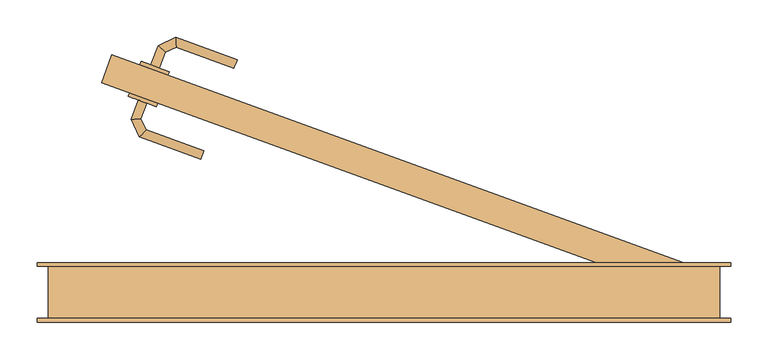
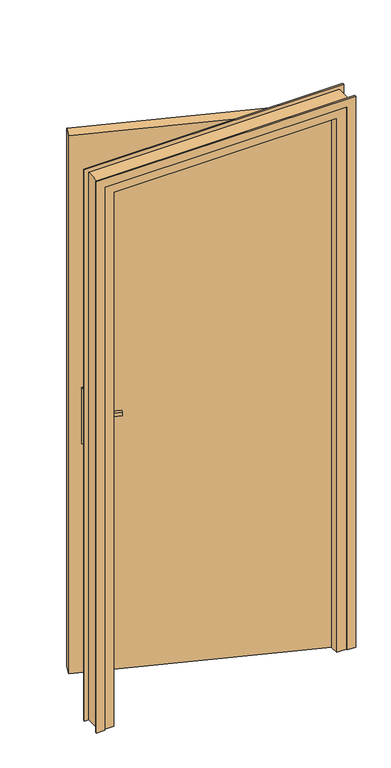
"""IFC4 building model written with IfcOpenShell, lengths in millimetres: door geometry, @_Int. Simple : @_PP (0.83m x 2.04m)."""

from ifc_helpers import new_model, si_unit, point, frame, frame_2d, origin, origin_with_axes, place, context, project, spatial, polyline, circle_curve, ellipse_curve, trimmed, segment, composite_curve, outline, extrude, faceted_brep, source, transform, mapped, element, save
from ifc_brep_helpers import plane_surface, cylinder_surface, advanced_brep


def door_bd61b35e(model_context):
    return source(origin(), model_context, "Body", "SolidModel", [
        extrude(outline(composite_curve([segment(trimmed(circle_curve(frame_2d((0.0, 40.0)), 40.0), [point((34.6410162, 60.0))], [point((34.6410162, 20.0))], False, "CARTESIAN"), True, "CONTINUOUS"), segment(polyline([(34.6410162, 20.0), (-175.3589838, 20.0)]), True, "CONTINUOUS"), segment(trimmed(circle_curve(frame_2d((-140.7179676, 40.0)), 40.0), [point((-175.3589838, 20.0))], [point((-175.3589838, 60.0))], False, "CARTESIAN"), True, "CONTINUOUS"), segment(polyline([(-175.3589838, 60.0), (34.6410162, 60.0)]), True, "CONTINUOUS")], self_intersect=False)), frame((-305.9756132, 284.6747046, 904.6410162), z_axis=(0.3420201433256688, 0.9396926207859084, 0.0), x_axis=(0.0, 0.0, -1.0)), (0.0, 0.0, 1.0), 5.0),
        extrude(outline(composite_curve([segment(trimmed(circle_curve(frame_2d((0.0, 40.0000001)), 40.0), [point((-34.6410162, 20.0))], [point((-34.6410162, 60.0))], False, "CARTESIAN"), True, "CONTINUOUS"), segment(polyline([(-34.6410162, 60.0), (175.3589838, 60.0)]), True, "CONTINUOUS"), segment(trimmed(circle_curve(frame_2d((140.7179676, 40.0000001)), 40.0), [point((175.3589838, 60.0))], [point((175.3589838, 20.0))], False, "CARTESIAN"), True, "CONTINUOUS"), segment(polyline([(175.3589838, 20.0), (-34.6410162, 20.0)]), True, "CONTINUOUS")], self_intersect=False)), frame((-321.3665196, 242.3885367, 1045.3589838), z_axis=(0.3420201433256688, 0.9396926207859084, 0.0), x_axis=(0.0, 0.0, -1.0)), (0.0, 0.0, 1.0), 5.0),
        advanced_brep(
        [(-347.491373, 305.1060943, 1007.0), (-347.491373, 305.1060943, 993.0), (-336.2150616, 301.0018526, 993.0), (-336.2150616, 301.0018526, 1007.0), (-328.457912, 322.3144458, 1007.0), (-338.0341909, 331.0894887, 1007.0), (-328.457912, 322.3144458, 993.0), (-338.0341909, 331.0894887, 993.0), (-313.9133269, 329.0966972, 1007.0), (-314.4798863, 342.0730413, 1007.0), (-313.9133269, 329.0966972, 993.0), (-314.4798863, 342.0730413, 993.0), (-232.1238807, 312.0979066, 1007.0), (-236.2281224, 300.8215952, 1007.0), (-236.2281224, 300.8215952, 993.0), (-232.1238807, 312.0979066, 993.0)],
        [
            (0, 1),
            (1, 2, circle_curve(frame((-341.8532173, 303.0539735, 1013.0457722), z_axis=(-0.3420201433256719, -0.9396926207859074, 0.0), x_axis=(0.9396926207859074, -0.3420201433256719, 0.0)), 20.9244589)),
            (2, 3),
            (3, 0, circle_curve(frame((-341.8532173, 303.0539735, 986.9542278), z_axis=(-0.3420201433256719, -0.9396926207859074, 0.0), x_axis=(0.9396926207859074, -0.3420201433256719, 0.0)), 20.9244589)),
            (3, 4),
            (4, 5, ellipse_curve(frame((-333.2460515, 326.7019672, 986.9542278), z_axis=(-0.6755902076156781, -0.7372773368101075, 0.0), x_axis=(0.7372773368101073, -0.6755902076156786, 0.0)), 22.6484711, 20.9244589)),
            (5, 0),
            (2, 6),
            (6, 4),
            (1, 7),
            (7, 6, ellipse_curve(frame((-333.2460515, 326.7019672, 1013.0457722), z_axis=(-0.6755902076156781, -0.7372773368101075, 0.0), x_axis=(0.7372773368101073, -0.6755902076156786, 0.0)), 22.6484711, 20.9244589)),
            (5, 7),
            (4, 8),
            (8, 9, ellipse_curve(frame((-314.1966066, 335.5848693, 986.9542278), z_axis=(-0.9990482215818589, -0.0436193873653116, 0.0), x_axis=(0.04361938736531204, -0.9990482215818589, 0.0)), 22.6484711, 20.9244589)),
            (9, 5),
            (6, 10),
            (10, 8),
            (7, 11),
            (11, 10, ellipse_curve(frame((-314.1966066, 335.5848693, 1013.0457722), z_axis=(-0.9990482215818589, -0.0436193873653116, 0.0), x_axis=(0.04361938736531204, -0.9990482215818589, 0.0)), 22.6484711, 20.9244589)),
            (9, 11),
            (12, 13, circle_curve(frame((-234.1760015, 306.4597509, 986.9542278), z_axis=(0.9396926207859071, -0.34202014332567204, 0.0), x_axis=(-0.3420201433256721, -0.9396926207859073, 0.0)), 20.9244589)),
            (13, 14),
            (14, 15, circle_curve(frame((-234.1760015, 306.4597509, 1013.0457722), z_axis=(0.9396926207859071, -0.34202014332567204, 0.0), x_axis=(-0.3420201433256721, -0.9396926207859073, 0.0)), 20.9244589)),
            (15, 12),
            (8, 13),
            (12, 9),
            (10, 14),
            (11, 15),
        ],
        [
            plane_surface(frame((-350.5167552, 306.2072434, 1000.0), z_axis=(-0.3420201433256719, -0.9396926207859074, 0.0), x_axis=(0.0, 0.0, -1.0))),
            cylinder_surface(frame((-341.8532173, 303.0539735, 986.9542278), z_axis=(-0.3420201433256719, -0.9396926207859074, 0.0), x_axis=(0.9396926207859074, -0.3420201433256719, 0.0)), 20.9244589),
            plane_surface(frame((-336.2150616, 301.0018526, 1007.0), z_axis=(0.9396926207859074, -0.3420201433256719, 0.0), x_axis=(0.3420201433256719, 0.9396926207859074, 0.0))),
            cylinder_surface(frame((-341.8532173, 303.0539735, 1013.0457722), z_axis=(-0.3420201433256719, -0.9396926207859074, 0.0), x_axis=(0.9396926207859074, -0.3420201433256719, 0.0)), 20.9244589),
            plane_surface(frame((-347.491373, 305.1060943, 993.0), z_axis=(-0.9396926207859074, 0.3420201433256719, 0.0), x_axis=(0.3420201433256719, 0.9396926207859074, 0.0))),
            cylinder_surface(frame((-333.2460515, 326.7019672, 986.9542278), z_axis=(-0.9063077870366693, -0.42261826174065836, 0.0), x_axis=(0.42261826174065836, -0.9063077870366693, 0.0)), 20.9244589),
            plane_surface(frame((-328.457912, 322.3144458, 1007.0), z_axis=(0.42261826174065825, -0.9063077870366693, 0.0), x_axis=(0.9063077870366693, 0.42261826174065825, 0.0))),
            cylinder_surface(frame((-333.2460515, 326.7019672, 1013.0457722), z_axis=(-0.9063077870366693, -0.42261826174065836, 0.0), x_axis=(0.42261826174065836, -0.9063077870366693, 0.0)), 20.9244589),
            plane_surface(frame((-338.0341909, 331.0894887, 993.0), z_axis=(-0.42261826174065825, 0.9063077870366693, 0.0), x_axis=(0.9063077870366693, 0.42261826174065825, 0.0))),
            plane_surface(frame((-234.1760015, 306.4597509, 990.7804555), z_axis=(0.9396926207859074, -0.3420201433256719, 0.0), x_axis=(-0.3420201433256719, -0.9396926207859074, 0.0))),
            cylinder_surface(frame((-314.1966066, 335.5848693, 986.9542278), z_axis=(-0.9396926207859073, 0.3420201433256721, 0.0), x_axis=(-0.3420201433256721, -0.9396926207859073, 0.0)), 20.9244589),
            plane_surface(frame((-313.9133269, 329.0966972, 1007.0), z_axis=(-0.3420201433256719, -0.9396926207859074, 0.0), x_axis=(0.9396926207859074, -0.3420201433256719, 0.0))),
            cylinder_surface(frame((-314.1966066, 335.5848693, 1013.0457722), z_axis=(-0.9396926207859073, 0.3420201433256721, 0.0), x_axis=(-0.3420201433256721, -0.9396926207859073, 0.0)), 20.9244589),
            plane_surface(frame((-314.4798863, 342.0730413, 993.0), z_axis=(0.3420201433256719, 0.9396926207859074, 0.0), x_axis=(0.9396926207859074, -0.3420201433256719, 0.0))),
        ],
        [
            (0, [[1, 2, 3, 4]]),
            (1, [[5, 6, 7, -4]]),
            (2, [[8, 9, -5, -3]]),
            (3, [[10, 11, -8, -2]]),
            (4, [[-7, 12, -10, -1]]),
            (5, [[13, 14, 15, -6]]),
            (6, [[16, 17, -13, -9]]),
            (7, [[18, 19, -16, -11]]),
            (8, [[-15, 20, -18, -12]]),
            (9, [[21, 22, 23, 24]]),
            (10, [[25, -21, 26, -14]]),
            (11, [[27, -22, -25, -17]]),
            (12, [[28, -23, -27, -19]]),
            (13, [[-26, -24, -28, -20]]),
        ],
    ),
        advanced_brep(
        [(-353.3160687, 254.0172216, 993.0), (-364.5923802, 258.1214633, 993.0), (-364.5923802, 258.1214633, 1007.0), (-353.3160687, 254.0172216, 1007.0), (-361.0064616, 232.8880408, 1007.0), (-361.0064616, 232.8880408, 993.0), (-373.9828056, 232.3214814, 1007.0), (-373.9828056, 232.3214814, 993.0), (-354.142025, 218.1672091, 1007.0), (-354.142025, 218.1672091, 993.0), (-362.9170679, 208.5909302, 1007.0), (-362.9170679, 208.5909302, 993.0), (-276.5605303, 189.9298543, 993.0), (-276.5605303, 189.9298543, 1007.0), (-280.664772, 178.6535428, 1007.0), (-280.664772, 178.6535428, 993.0)],
        [
            (0, 1, circle_curve(frame((-358.9542245, 256.0693424, 1013.0457722), z_axis=(0.3420201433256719, 0.9396926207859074, 0.0), x_axis=(-0.9396926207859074, 0.3420201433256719, 0.0)), 20.9244589)),
            (1, 2),
            (2, 3, circle_curve(frame((-358.9542245, 256.0693424, 986.9542278), z_axis=(0.3420201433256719, 0.9396926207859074, 0.0), x_axis=(-0.9396926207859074, 0.3420201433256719, 0.0)), 20.9244589)),
            (3, 0),
            (3, 4),
            (4, 5),
            (5, 0),
            (2, 6),
            (6, 4, ellipse_curve(frame((-367.4946336, 232.6047611, 986.9542278), z_axis=(-0.043619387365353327, 0.9990482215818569, 0.0), x_axis=(0.9990482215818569, 0.04361938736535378, 0.0)), 22.6484711, 20.9244589)),
            (1, 7),
            (7, 6),
            (5, 7, ellipse_curve(frame((-367.4946336, 232.6047611, 1013.0457722), z_axis=(-0.043619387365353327, 0.9990482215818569, 0.0), x_axis=(0.9990482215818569, 0.04361938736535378, 0.0)), 22.6484711, 20.9244589)),
            (4, 8),
            (8, 9),
            (9, 5),
            (6, 10),
            (10, 8, ellipse_curve(frame((-358.5295465, 213.3790696, 986.9542278), z_axis=(-0.737277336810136, 0.6755902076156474, 0.0), x_axis=(0.6755902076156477, 0.7372773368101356, 0.0)), 22.6484711, 20.9244589)),
            (7, 11),
            (11, 10),
            (9, 11, ellipse_curve(frame((-358.5295465, 213.3790696, 1013.0457722), z_axis=(-0.737277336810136, 0.6755902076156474, 0.0), x_axis=(0.6755902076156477, 0.7372773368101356, 0.0)), 22.6484711, 20.9244589)),
            (12, 13),
            (13, 14, circle_curve(frame((-278.6126511, 184.2916985, 986.9542278), z_axis=(0.9396926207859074, -0.3420201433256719, 0.0), x_axis=(-0.3420201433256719, -0.9396926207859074, 0.0)), 20.9244589)),
            (14, 15),
            (15, 12, circle_curve(frame((-278.6126511, 184.2916985, 1013.0457722), z_axis=(0.9396926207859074, -0.3420201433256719, 0.0), x_axis=(-0.3420201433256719, -0.9396926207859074, 0.0)), 20.9244589)),
            (8, 13),
            (12, 9),
            (10, 14),
            (11, 15),
        ],
        [
            plane_surface(frame((-367.6177623, 259.2226123, 1000.0), z_axis=(0.3420201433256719, 0.9396926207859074, 0.0), x_axis=(0.0, 0.0, 1.0))),
            plane_surface(frame((-353.3160687, 254.0172216, 993.0), z_axis=(0.9396926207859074, -0.3420201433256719, 0.0), x_axis=(-0.3420201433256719, -0.9396926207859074, 0.0))),
            cylinder_surface(frame((-358.9542245, 256.0693424, 986.9542278), z_axis=(0.3420201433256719, 0.9396926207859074, 0.0), x_axis=(-0.9396926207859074, 0.3420201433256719, 0.0)), 20.9244589),
            plane_surface(frame((-364.5923802, 258.1214633, 1007.0), z_axis=(-0.9396926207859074, 0.3420201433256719, 0.0), x_axis=(-0.3420201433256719, -0.9396926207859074, 0.0))),
            cylinder_surface(frame((-358.9542245, 256.0693424, 1013.0457722), z_axis=(0.3420201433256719, 0.9396926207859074, 0.0), x_axis=(-0.9396926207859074, 0.3420201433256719, 0.0)), 20.9244589),
            plane_surface(frame((-361.0064616, 232.8880408, 993.0), z_axis=(0.906307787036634, 0.42261826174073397, 0.0), x_axis=(0.42261826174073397, -0.906307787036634, 0.0))),
            cylinder_surface(frame((-367.4946336, 232.6047611, 986.9542278), z_axis=(-0.422618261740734, 0.9063077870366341, 0.0), x_axis=(-0.9063077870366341, -0.422618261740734, 0.0)), 20.9244589),
            plane_surface(frame((-373.9828056, 232.3214814, 1007.0), z_axis=(-0.906307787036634, -0.4226182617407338, 0.0), x_axis=(0.4226182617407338, -0.906307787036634, 0.0))),
            cylinder_surface(frame((-367.4946336, 232.6047611, 1013.0457722), z_axis=(-0.422618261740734, 0.9063077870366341, 0.0), x_axis=(-0.9063077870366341, -0.422618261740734, 0.0)), 20.9244589),
            plane_surface(frame((-278.6126511, 184.2916985, 990.7804555), z_axis=(0.9396926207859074, -0.3420201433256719, 0.0), x_axis=(-0.3420201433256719, -0.9396926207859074, 0.0))),
            plane_surface(frame((-354.142025, 218.1672091, 993.0), z_axis=(0.3420201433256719, 0.9396926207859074, 0.0), x_axis=(0.9396926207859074, -0.3420201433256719, 0.0))),
            cylinder_surface(frame((-358.5295465, 213.3790696, 986.9542278), z_axis=(-0.9396926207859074, 0.3420201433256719, 0.0), x_axis=(-0.3420201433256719, -0.9396926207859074, 0.0)), 20.9244589),
            plane_surface(frame((-362.9170679, 208.5909302, 1007.0), z_axis=(-0.3420201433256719, -0.9396926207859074, 0.0), x_axis=(0.9396926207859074, -0.3420201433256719, 0.0))),
            cylinder_surface(frame((-358.5295465, 213.3790696, 1013.0457722), z_axis=(-0.9396926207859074, 0.3420201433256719, 0.0), x_axis=(-0.3420201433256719, -0.9396926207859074, 0.0)), 20.9244589),
        ],
        [
            (0, [[1, 2, 3, 4]]),
            (1, [[5, 6, 7, -4]]),
            (2, [[8, 9, -5, -3]]),
            (3, [[10, 11, -8, -2]]),
            (4, [[-7, 12, -10, -1]]),
            (5, [[13, 14, 15, -6]]),
            (6, [[16, 17, -13, -9]]),
            (7, [[18, 19, -16, -11]]),
            (8, [[-15, 20, -18, -12]]),
            (9, [[21, 22, 23, 24]]),
            (10, [[25, -21, 26, -14]]),
            (11, [[27, -22, -25, -17]]),
            (12, [[28, -23, -27, -19]]),
            (13, [[-26, -24, -28, -20]]),
        ],
    ),
        extrude(outline(polyline([(-413.625681, 281.2890141), (-399.9448753, 318.876719), (380.0, 35.0), (366.3191943, -2.5877048), (-413.625681, 281.2890141)])), origin_with_axes(), (0.0, 0.0, 1.0), 2040.0),
        faceted_brep([(-485.0, 35.0, 0.0), (-450.0, 35.0, 0.0), (-450.0, -5.0, 0.0), (-435.0, -5.0, 0.0), (-435.0, -35.0, 0.0), (-485.0, -35.0, 0.0), (-485.0, -35.0, 2075.0), (-485.0, 35.0, 2075.0), (-435.0, -35.0, 2025.0), (365.0, -35.0, 2025.0), (365.0, -35.0, 0.0), (415.0, -35.0, 0.0), (415.0, -35.0, 2075.0), (-435.0, -5.0, 2025.0), (-450.0, -5.0, 2040.0), (380.0, -5.0, 2040.0), (380.0, -5.0, 0.0), (365.0, -5.0, 0.0), (365.0, -5.0, 2025.0), (-450.0, 35.0, 2040.0), (415.0, 35.0, 2075.0), (415.0, 35.0, 0.0), (380.0, 35.0, 0.0), (380.0, 35.0, 2040.0)], [[[0, 1, 2, 3, 4, 5]], [[5, 6, 7, 0]], [[4, 8, 9, 10, 11, 12, 6, 5]], [[3, 13, 8, 4]], [[2, 14, 15, 16, 17, 18, 13, 3]], [[1, 19, 14, 2]], [[0, 7, 20, 21, 22, 23, 19, 1]], [[12, 11, 21, 20]], [[21, 11, 10, 17, 16, 22]], [[18, 17, 10, 9]], [[23, 22, 16, 15]], [[6, 12, 20, 7]], [[13, 18, 9, 8]], [[19, 23, 15, 14]]]),
        extrude(outline(polyline([(0.0, -470.0), (2060.0, -470.0), (2060.0, 400.0), (0.0, 400.0), (0.0, 430.0), (2090.0, 430.0), (2090.0, -500.0), (0.0, -500.0), (0.0, -470.0)])), frame((0.0, 35.0, 0.0), z_axis=(0.0, 1.0, 0.0), x_axis=(0.0, 0.0, 1.0)), (0.0, 0.0, 1.0), 5.0),
        extrude(outline(polyline([(0.0, -470.0), (2060.0, -470.0), (2060.0, 400.0), (0.0, 400.0), (0.0, 430.0), (2090.0, 430.0), (2090.0, -500.0), (0.0, -500.0), (0.0, -470.0)])), frame((0.0, -40.0, 0.0), z_axis=(0.0, 1.0, 0.0), x_axis=(0.0, 0.0, 1.0)), (0.0, 0.0, 1.0), 5.0),
    ])


if __name__ == "__main__":
    model = new_model("IFC4")
    model_context = context("Model", 3, world=origin())
    ifc_project = project(units=[si_unit("LENGTHUNIT", "METRE", prefix="MILLI")], contexts=[model_context])
    site = spatial("IfcSite", under=ifc_project)
    building = spatial("IfcBuilding", under=site)
    placement = place(None, origin())
    door_shape = door_bd61b35e(model_context)
    element("IfcDoor", 1, ObjectType="@_Int. Simple : @_PP (0.83m x 2.04m)", at=placement, inside=building, context=model_context, shape_type="MappedRepresentation", body=[
        mapped(door_shape, transform((0.0, 0.0, 0.0), x_axis=(1.0, 0.0, 0.0), y_axis=(0.0, 1.0, 0.0), z_axis=(0.0, 0.0, 1.0))),
    ])
    save(model, "model.ifc")
